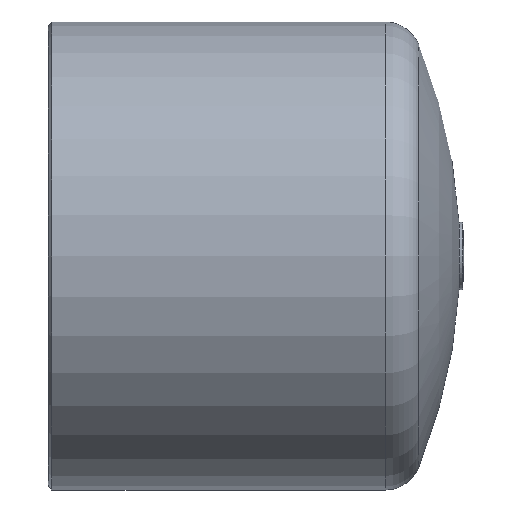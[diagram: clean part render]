
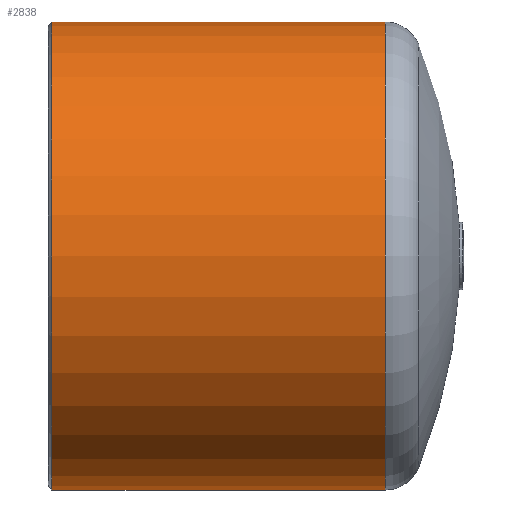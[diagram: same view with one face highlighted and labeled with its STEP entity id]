
A CAD part, front view. The second image highlights one B-rep face of the part: STEP entity #2838.
In plain terms, the highlighted cylindrical face has radius 62.5 mm (diameter 125 mm), a full revolution.
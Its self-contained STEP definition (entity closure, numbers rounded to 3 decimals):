
#171=CYLINDRICAL_SURFACE('',#3092,62.5);
#369=CIRCLE('',#3091,62.5);
#370=CIRCLE('',#3093,62.5);
#1238=ORIENTED_EDGE('',*,*,#1681,.T.);
#1239=ORIENTED_EDGE('',*,*,#1680,.T.);
#1680=EDGE_CURVE('',#1933,#1933,#369,.T.);
#1681=EDGE_CURVE('',#1934,#1934,#370,.T.);
#1933=VERTEX_POINT('',#7300);
#1934=VERTEX_POINT('',#7303);
#2388=EDGE_LOOP('',(#1238));
#2389=EDGE_LOOP('',(#1239));
#2600=FACE_BOUND('',#2388,.T.);
#2601=FACE_BOUND('',#2389,.T.);
#2838=ADVANCED_FACE('',(#2600,#2601),#171,.T.);
#3091=AXIS2_PLACEMENT_3D('',#7299,#3572,#3573);
#3092=AXIS2_PLACEMENT_3D('',#7301,#3574,#3575);
#3093=AXIS2_PLACEMENT_3D('',#7302,#3576,#3577);
#3572=DIRECTION('',(-1.,0.,0.));
#3573=DIRECTION('',(0.,0.,1.));
#3574=DIRECTION('',(-1.,0.,0.));
#3575=DIRECTION('',(0.,0.,1.));
#3576=DIRECTION('',(1.,0.,0.));
#3577=DIRECTION('',(0.,0.,-1.));
#7299=CARTESIAN_POINT('',(90.,0.,0.));
#7300=CARTESIAN_POINT('',(90.,0.,62.5));
#7301=CARTESIAN_POINT('',(110.,0.,0.));
#7302=CARTESIAN_POINT('',(1.,0.,0.));
#7303=CARTESIAN_POINT('',(1.,0.,-62.5));
